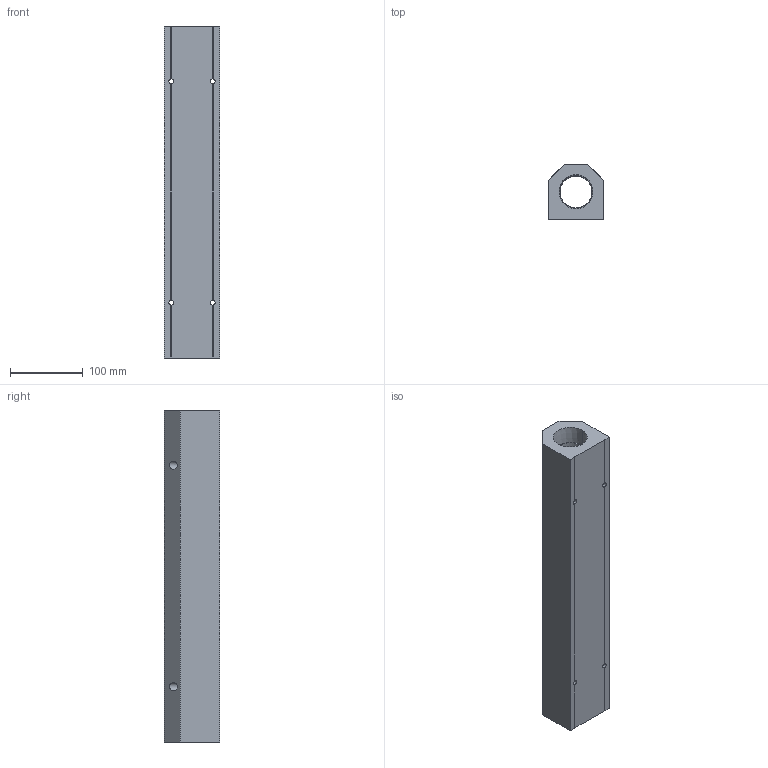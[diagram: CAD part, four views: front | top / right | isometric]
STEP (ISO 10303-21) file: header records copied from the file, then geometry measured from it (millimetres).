
FILE_DESCRIPTION (( 'STEP AP214' ), '1' );
FILE_NAME ('ALM8C-N8N24-457R.step', '2022-02-07T09:23:37', ( '' ), ( '' ), 'SwSTEP 2.0', 'SolidWorks 2020', '' );
FILE_SCHEMA (( 'AUTOMOTIVE_DESIGN' ));
Length unit declared in the file: millimetre
Products named in the file (1): ALM8C-N8N24-457R
Bounding box: 76.2 x 76.2 x 457 mm (x, y, z)
Volume: 1662732.1 mm3; surface area: 207373 mm2
Topology: 1 solids, 1 shells, 301 faces, 793 edges, 526 vertices
Faces by surface type: plane 198, bspline 65, cone 20, cylinder 18
Entity records: 16763 total; most frequent: CARTESIAN_POINT 6926, ORIENTED_EDGE 1586, DIRECTION 1157, EDGE_CURVE 793, VECTOR 579, LINE 579, VERTEX_POINT 526, EDGE_LOOP 359
